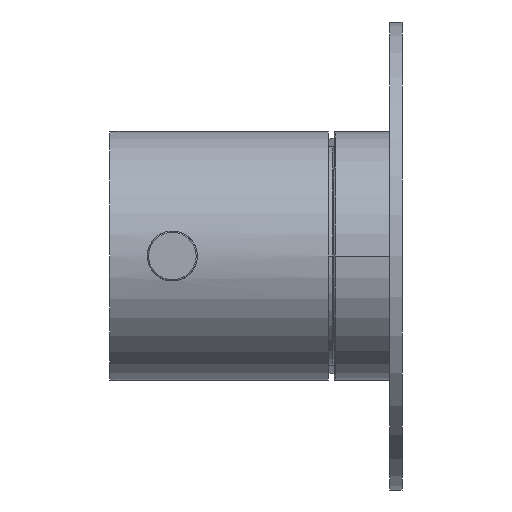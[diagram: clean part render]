
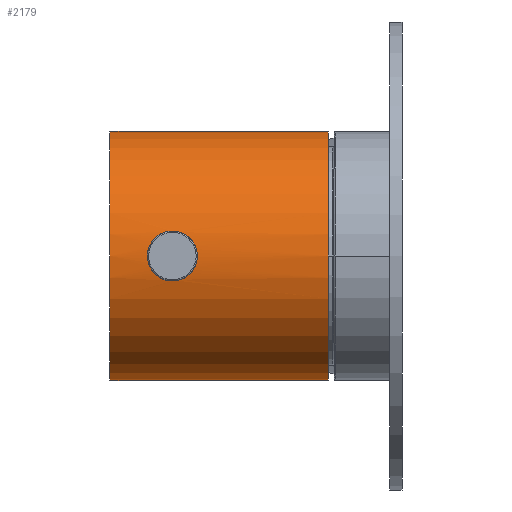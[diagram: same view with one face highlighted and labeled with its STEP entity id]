
A CAD part, left-side view. The second image highlights one B-rep face of the part: STEP entity #2179.
In plain terms, the highlighted cylindrical face has radius 20 mm (diameter 40 mm), a partial arc.
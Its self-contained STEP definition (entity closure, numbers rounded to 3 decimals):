
#1446=DIRECTION('',(0.,1.,0.));
#1447=VECTOR('',#1446,35.);
#1448=CARTESIAN_POINT('',(-110.,-0.2,20.));
#1449=LINE('',#1448,#1447);
#1455=CARTESIAN_POINT('',(-110.,-0.2,0.));
#1456=DIRECTION('',(0.,1.,0.));
#1457=DIRECTION('',(0.,0.,-1.));
#1458=AXIS2_PLACEMENT_3D('',#1455,#1456,#1457);
#1460=DIRECTION('',(0.,1.,0.));
#1461=VECTOR('',#1460,35.);
#1462=CARTESIAN_POINT('',(-110.,-0.2,-20.));
#1463=LINE('',#1462,#1461);
#1469=CARTESIAN_POINT('',(-110.,34.8,0.));
#1470=DIRECTION('',(0.,1.,0.));
#1471=DIRECTION('',(0.,0.,-1.));
#1472=AXIS2_PLACEMENT_3D('',#1469,#1470,#1471);
#1474=CARTESIAN_POINT('',(-129.93,28.433,1.674));
#1475=CARTESIAN_POINT('',(-129.921,28.386,1.776));
#1476=CARTESIAN_POINT('',(-129.903,28.282,1.978));
#1477=CARTESIAN_POINT('',(-129.872,28.1,2.268));
#1478=CARTESIAN_POINT('',(-129.838,27.895,2.542));
#1479=CARTESIAN_POINT('',(-129.804,27.666,2.797));
#1480=CARTESIAN_POINT('',(-129.769,27.417,3.032));
#1481=CARTESIAN_POINT('',(-129.735,27.148,3.244));
#1482=CARTESIAN_POINT('',(-129.703,26.863,3.433));
#1483=CARTESIAN_POINT('',(-129.674,26.563,3.596));
#1484=CARTESIAN_POINT('',(-129.649,26.252,3.732));
#1485=CARTESIAN_POINT('',(-129.628,25.931,3.842));
#1486=CARTESIAN_POINT('',(-129.611,25.603,3.923));
#1487=CARTESIAN_POINT('',(-129.601,25.27,3.977));
#1488=CARTESIAN_POINT('',(-129.595,24.933,4.002));
#1489=CARTESIAN_POINT('',(-129.596,24.597,4.));
#1490=CARTESIAN_POINT('',(-129.602,24.261,3.968));
#1491=CARTESIAN_POINT('',(-129.614,23.929,3.909));
#1492=CARTESIAN_POINT('',(-129.632,23.602,3.821));
#1493=CARTESIAN_POINT('',(-129.654,23.282,3.706));
#1494=CARTESIAN_POINT('',(-129.68,22.974,3.564));
#1495=CARTESIAN_POINT('',(-129.71,22.677,3.396));
#1496=CARTESIAN_POINT('',(-129.742,22.395,3.202));
#1497=CARTESIAN_POINT('',(-129.776,22.13,2.985));
#1498=CARTESIAN_POINT('',(-129.811,21.884,2.746));
#1499=CARTESIAN_POINT('',(-129.845,21.661,2.487));
#1500=CARTESIAN_POINT('',(-129.878,21.46,2.209));
#1501=CARTESIAN_POINT('',(-129.909,21.284,1.917));
#1502=CARTESIAN_POINT('',(-129.936,21.134,1.611));
#1503=CARTESIAN_POINT('',(-129.959,21.011,1.296));
#1504=CARTESIAN_POINT('',(-129.977,20.915,
0.97));
#1505=CARTESIAN_POINT('',(-129.991,20.847,
0.64));
#1506=CARTESIAN_POINT('',(-129.999,20.807,
0.304));
#1507=CARTESIAN_POINT('',(-130.001,20.795,
-0.032));
#1508=CARTESIAN_POINT('',(-129.998,20.812,
-0.368));
#1509=CARTESIAN_POINT('',(-129.989,20.858,
-0.705));
#1510=CARTESIAN_POINT('',(-129.974,20.932,
-1.037));
#1511=CARTESIAN_POINT('',(-129.954,21.034,
-1.362));
#1512=CARTESIAN_POINT('',(-129.938,21.12,
-1.571));
#1513=CARTESIAN_POINT('',(-129.93,21.167,
-1.674));
#1524=CARTESIAN_POINT('',(-129.93,21.167,
-1.674));
#1525=CARTESIAN_POINT('',(-129.921,21.214,
-1.776));
#1526=CARTESIAN_POINT('',(-129.903,21.318,
-1.978));
#1527=CARTESIAN_POINT('',(-129.872,21.5,-2.268));
#1528=CARTESIAN_POINT('',(-129.838,21.705,
-2.542));
#1529=CARTESIAN_POINT('',(-129.804,21.934,
-2.797));
#1530=CARTESIAN_POINT('',(-129.769,22.183,
-3.032));
#1531=CARTESIAN_POINT('',(-129.735,22.452,
-3.244));
#1532=CARTESIAN_POINT('',(-129.704,22.737,
-3.433));
#1533=CARTESIAN_POINT('',(-129.674,23.037,
-3.596));
#1534=CARTESIAN_POINT('',(-129.649,23.348,
-3.732));
#1535=CARTESIAN_POINT('',(-129.628,23.669,
-3.842));
#1536=CARTESIAN_POINT('',(-129.611,23.997,
-3.923));
#1537=CARTESIAN_POINT('',(-129.601,24.33,
-3.977));
#1538=CARTESIAN_POINT('',(-129.595,24.667,
-4.002));
#1539=CARTESIAN_POINT('',(-129.596,25.002,
-4.));
#1540=CARTESIAN_POINT('',(-129.602,25.338,
-3.968));
#1541=CARTESIAN_POINT('',(-129.614,25.671,
-3.909));
#1542=CARTESIAN_POINT('',(-129.632,25.998,
-3.822));
#1543=CARTESIAN_POINT('',(-129.654,26.317,
-3.706));
#1544=CARTESIAN_POINT('',(-129.68,26.626,
-3.564));
#1545=CARTESIAN_POINT('',(-129.71,26.923,
-3.396));
#1546=CARTESIAN_POINT('',(-129.742,27.205,
-3.202));
#1547=CARTESIAN_POINT('',(-129.776,27.47,
-2.985));
#1548=CARTESIAN_POINT('',(-129.811,27.715,
-2.746));
#1549=CARTESIAN_POINT('',(-129.845,27.939,
-2.487));
#1550=CARTESIAN_POINT('',(-129.878,28.14,
-2.21));
#1551=CARTESIAN_POINT('',(-129.909,28.316,
-1.917));
#1552=CARTESIAN_POINT('',(-129.936,28.466,
-1.611));
#1553=CARTESIAN_POINT('',(-129.959,28.589,
-1.296));
#1554=CARTESIAN_POINT('',(-129.977,28.685,
-0.971));
#1555=CARTESIAN_POINT('',(-129.991,28.753,
-0.64));
#1556=CARTESIAN_POINT('',(-129.999,28.793,
-0.305));
#1557=CARTESIAN_POINT('',(-130.001,28.805,
0.032));
#1558=CARTESIAN_POINT('',(-129.998,28.788,
0.368));
#1559=CARTESIAN_POINT('',(-129.989,28.742,
0.704));
#1560=CARTESIAN_POINT('',(-129.974,28.668,1.037));
#1561=CARTESIAN_POINT('',(-129.954,28.566,1.362));
#1562=CARTESIAN_POINT('',(-129.938,28.48,1.571));
#1563=CARTESIAN_POINT('',(-129.93,28.433,1.674));
#1993=CARTESIAN_POINT('',(-110.,-0.2,20.));
#1994=CARTESIAN_POINT('',(-110.,-0.2,-20.));
#1995=VERTEX_POINT('',#1993);
#1996=VERTEX_POINT('',#1994);
#1997=CARTESIAN_POINT('',(-110.,34.8,20.));
#1998=CARTESIAN_POINT('',(-110.,34.8,-20.));
#1999=VERTEX_POINT('',#1997);
#2000=VERTEX_POINT('',#1998);
#2063=VERTEX_POINT('',#1474);
#2064=VERTEX_POINT('',#1513);
#2161=CARTESIAN_POINT('',(-110.,-0.2,0.));
#2162=DIRECTION('',(0.,1.,0.));
#2163=DIRECTION('',(0.,0.,1.));
#2164=AXIS2_PLACEMENT_3D('',#2161,#2162,#2163);
#2165=CYLINDRICAL_SURFACE('',#2164,20.);
#2166=ORIENTED_EDGE('',*,*,#2150,.F.);
#2167=ORIENTED_EDGE('',*,*,#2113,.T.);
#2169=ORIENTED_EDGE('',*,*,#2168,.T.);
#2170=ORIENTED_EDGE('',*,*,#2109,.F.);
#2171=EDGE_LOOP('',(#2166,#2167,#2169,#2170));
#2172=FACE_OUTER_BOUND('',#2171,.F.);
#2174=ORIENTED_EDGE('',*,*,#2173,.F.);
#2176=ORIENTED_EDGE('',*,*,#2175,.F.);
#2177=EDGE_LOOP('',(#2174,#2176));
#2178=FACE_BOUND('',#2177,.F.);
#2179=ADVANCED_FACE('',(#2172,#2178),#2165,.T.);
#1459=CIRCLE('',#1458,20.);
#1473=CIRCLE('',#1472,20.);
#1514=B_SPLINE_CURVE_WITH_KNOTS('',3,(#1474,#1475,#1476,#1477,#1478,#1479,#1480,
#1481,#1482,#1483,#1484,#1485,#1486,#1487,#1488,#1489,#1490,#1491,#1492,#1493,
#1494,#1495,#1496,#1497,#1498,#1499,#1500,#1501,#1502,#1503,#1504,#1505,#1506,
#1507,#1508,#1509,#1510,#1511,#1512,#1513),.UNSPECIFIED.,.F.,.F.,(4,1,1,1,1,1,1,
1,1,1,1,1,1,1,1,1,1,1,1,1,1,1,1,1,1,1,1,1,1,1,1,1,1,1,1,1,1,4),(0.,
0.027,0.054,0.081,0.108,
0.135,0.162,0.189,0.216,
0.243,0.27,0.297,0.324,
0.351,0.378,0.405,0.432,
0.459,0.486,0.514,0.541,
0.568,0.595,0.622,0.649,
0.676,0.703,0.73,0.757,
0.784,0.811,0.838,0.865,
0.892,0.919,0.946,0.973,1.),
.UNSPECIFIED.);
#1564=B_SPLINE_CURVE_WITH_KNOTS('',3,(#1524,#1525,#1526,#1527,#1528,#1529,#1530,
#1531,#1532,#1533,#1534,#1535,#1536,#1537,#1538,#1539,#1540,#1541,#1542,#1543,
#1544,#1545,#1546,#1547,#1548,#1549,#1550,#1551,#1552,#1553,#1554,#1555,#1556,
#1557,#1558,#1559,#1560,#1561,#1562,#1563),.UNSPECIFIED.,.F.,.F.,(4,1,1,1,1,1,1,
1,1,1,1,1,1,1,1,1,1,1,1,1,1,1,1,1,1,1,1,1,1,1,1,1,1,1,1,1,1,4),(0.,
0.027,0.054,0.081,0.108,
0.135,0.162,0.189,0.216,
0.243,0.27,0.297,0.324,
0.351,0.378,0.405,0.432,
0.459,0.486,0.514,0.541,
0.568,0.595,0.622,0.649,
0.676,0.703,0.73,0.757,
0.784,0.811,0.838,0.865,
0.892,0.919,0.946,0.973,1.),
.UNSPECIFIED.);
#2109=EDGE_CURVE('',#1995,#1999,#1449,.T.);
#2113=EDGE_CURVE('',#1996,#2000,#1463,.T.);
#2150=EDGE_CURVE('',#1996,#1995,#1459,.T.);
#2168=EDGE_CURVE('',#2000,#1999,#1473,.T.);
#2173=EDGE_CURVE('',#2063,#2064,#1514,.T.);
#2175=EDGE_CURVE('',#2064,#2063,#1564,.T.);
